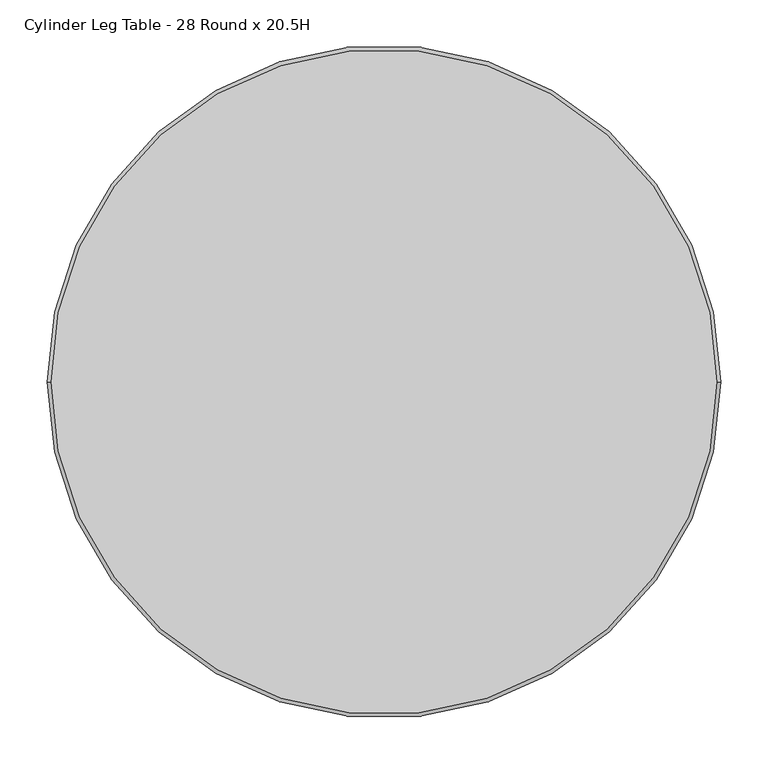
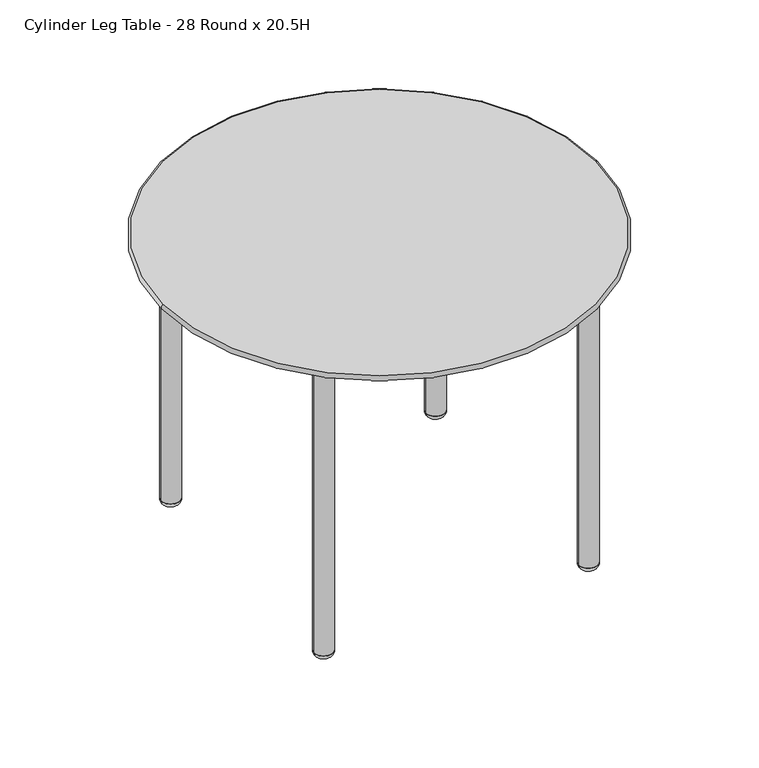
"""IFC4 building model written with IfcOpenShell, lengths in millimetres: furniture geometry, Integra - Coastal Collection - Coastal Metal Tables - Freestanding Table : Cylinder Leg Table - 28 Round x 20.5H."""

import ifcopenshell
import ifcopenshell.guid

model = None  # the IFC model being written
_history = None  # IfcOwnerHistory: only IFC2X3 demands one
_inside = {}  # id of a spatial element -> (the spatial element, [elements in it])
_under = {}  # id of a project, library or spatial element -> (it, [spatial elements below it])
_declared = {}  # id of a project -> (the project, [libraries it declares])
_typed = {}  # id of a type object -> (the type object, [elements of that type])
_made_of = {}  # id of a material, layer set ... -> (it, [elements and type objects made of it])


def new_model(schema):
    """Start an empty IFC model of exactly this schema.

    Asked for "IFC4X3", IfcOpenShell would pick the latest addendum, in which some entities
    have other attributes; the version numbers below select the first issue.
    IFC2X3 requires an IfcOwnerHistory on every rooted entity: one is made here for all.
    """
    global model, _history
    if schema == "IFC4X3":
        model = ifcopenshell.file(schema_version=(4, 3, 0, 0))
    else:
        model = ifcopenshell.file(schema=schema)
    _inside.clear()
    _under.clear()
    _declared.clear()
    _typed.clear()
    _made_of.clear()
    _history = None
    if model.schema == "IFC2X3":
        org = make("IfcOrganization", Name="unknown")
        user = make(
            "IfcPersonAndOrganization",
            ThePerson=make("IfcPerson", FamilyName="unknown"),
            TheOrganization=org,
        )
        app = make(
            "IfcApplication",
            ApplicationDeveloper=org,
            Version="unknown",
            ApplicationFullName="unknown",
            ApplicationIdentifier="unknown",
        )
        _history = make(
            "IfcOwnerHistory",
            OwningUser=user,
            OwningApplication=app,
            ChangeAction="ADDED",
            CreationDate=0,
        )
    return model


def make(cls, **values):
    """One entity of the class cls with the attributes given. An attribute that is None is left unset."""
    return model.create_entity(
        cls, **{name: value for name, value in values.items() if value is not None}
    )


def rooted(cls, **values):
    """An entity with a GlobalId (a new one), such as an element, a storey or a relation."""
    return make(cls, GlobalId=ifcopenshell.guid.new(), OwnerHistory=_history, **values)


def si_unit(unit_type, name, prefix=None):
    """IfcSIUnit, for example si_unit("LENGTHUNIT", "METRE", prefix="MILLI")."""
    return make("IfcSIUnit", UnitType=unit_type, Prefix=prefix, Name=name)


def assignment(units):
    """IfcUnitAssignment: the units of a project."""
    return None if units is None else make("IfcUnitAssignment", Units=units)


def point(xyz):
    """IfcCartesianPoint."""
    return None if xyz is None else make("IfcCartesianPoint", Coordinates=xyz)


def direction(xyz):
    """IfcDirection."""
    return None if xyz is None else make("IfcDirection", DirectionRatios=xyz)


def frame(location, z_axis=None, x_axis=None):
    """IfcAxis2Placement3D, a coordinate frame: its origin and axes. An axis left out is left unset."""
    return make(
        "IfcAxis2Placement3D",
        Location=point(location),
        Axis=direction(z_axis),
        RefDirection=direction(x_axis),
    )


def frame_2d(location, x_axis=None):
    """IfcAxis2Placement2D, a coordinate frame in the plane: its origin and x axis."""
    return make(
        "IfcAxis2Placement2D", Location=point(location), RefDirection=direction(x_axis)
    )


def origin():
    """The frame at (0, 0, 0) with its axes left unset."""
    return frame((0.0, 0.0, 0.0))


def origin_2d():
    """The frame at (0, 0) in the plane with its x axis left unset."""
    return frame_2d((0.0, 0.0))


def place(relative_to, where):
    """IfcLocalPlacement: puts the frame where relative to a parent placement (None: the world)."""
    return make(
        "IfcLocalPlacement", PlacementRelTo=relative_to, RelativePlacement=where
    )


def context(
    kind, dimensions, precision=None, world=None, true_north=None, identifier=None
):
    """IfcGeometricRepresentationContext, for example the 3D "Model" context."""
    return make(
        "IfcGeometricRepresentationContext",
        ContextIdentifier=identifier,
        ContextType=kind,
        CoordinateSpaceDimension=dimensions,
        Precision=precision,
        WorldCoordinateSystem=world,
        TrueNorth=true_north,
    )


def project(units=None, contexts=None):
    """IfcProject with its units and contexts."""
    return rooted(
        "IfcProject",
        Name="project",
        RepresentationContexts=contexts,
        UnitsInContext=assignment(units),
    )


def spatial(cls, under=None, at=None, **own):
    """A site, building, storey or space (cls), placed at a placement, below another one or the project."""
    s = rooted(cls, ObjectPlacement=at, **own)
    if under is not None:
        _under.setdefault(under.id(), (under, []))[1].append(s)
    return s


def circle_curve(where, radius):
    """IfcCircle in the frame where."""
    return make("IfcCircle", Position=where, Radius=radius)


def ellipse_curve(where, semi_axis1, semi_axis2):
    """IfcEllipse in the frame where."""
    return make(
        "IfcEllipse", Position=where, SemiAxis1=semi_axis1, SemiAxis2=semi_axis2
    )


def trimmed(basis, trim1, trim2, sense, master):
    """IfcTrimmedCurve: the piece of a basis curve between two trims."""
    return make(
        "IfcTrimmedCurve",
        BasisCurve=basis,
        Trim1=trim1,
        Trim2=trim2,
        SenseAgreement=sense,
        MasterRepresentation=master,
    )


def segment(curve, same_sense, transition):
    """IfcCompositeCurveSegment."""
    return make(
        "IfcCompositeCurveSegment",
        Transition=transition,
        SameSense=same_sense,
        ParentCurve=curve,
    )


def composite_curve(segments, self_intersect=None):
    """IfcCompositeCurve: segments joined end to end."""
    return make("IfcCompositeCurve", Segments=segments, SelfIntersect=self_intersect)


def outline(outer, holes=None, kind="AREA"):
    """IfcArbitraryClosedProfileDef: a profile drawn as a closed curve; with holes, ...WithVoids."""
    if holes is None:
        return make("IfcArbitraryClosedProfileDef", ProfileType=kind, OuterCurve=outer)
    return make(
        "IfcArbitraryProfileDefWithVoids",
        ProfileType=kind,
        OuterCurve=outer,
        InnerCurves=holes,
    )


def extrude(swept, where, along, depth):
    """IfcExtrudedAreaSolid: the profile swept, set in the frame where, extruded along a direction by depth."""
    return make(
        "IfcExtrudedAreaSolid",
        SweptArea=swept,
        Position=where,
        ExtrudedDirection=direction(along),
        Depth=depth,
    )


def shape(context_of_items, identifier, shape_type, items):
    """IfcShapeRepresentation: the items that make up one representation, for example the "Body"."""
    return make(
        "IfcShapeRepresentation",
        ContextOfItems=context_of_items,
        RepresentationIdentifier=identifier,
        RepresentationType=shape_type,
        Items=items,
    )


def source(mapping_origin, context_of_items, identifier, shape_type, items):
    """IfcRepresentationMap: a shape defined once, which mapped items show again and again."""
    return make(
        "IfcRepresentationMap",
        MappingOrigin=mapping_origin,
        MappedRepresentation=shape(context_of_items, identifier, shape_type, items),
    )


def transform(
    local_origin,
    x_axis=None,
    y_axis=None,
    z_axis=None,
    scale=None,
    scale2=None,
    scale3=None,
    uniform=True,
):
    """IfcCartesianTransformationOperator3D, or its non-uniform kind. x_axis, y_axis, z_axis: its Axis1, 2, 3."""
    if uniform:
        return make(
            "IfcCartesianTransformationOperator3D",
            Axis1=direction(x_axis),
            Axis2=direction(y_axis),
            LocalOrigin=point(local_origin),
            Scale=scale,
            Axis3=direction(z_axis),
        )
    return make(
        "IfcCartesianTransformationOperator3DnonUniform",
        Axis1=direction(x_axis),
        Axis2=direction(y_axis),
        LocalOrigin=point(local_origin),
        Scale=scale,
        Axis3=direction(z_axis),
        Scale2=scale2,
        Scale3=scale3,
    )


def mapped(mapping_source, mapping_target):
    """IfcMappedItem: shows the shape of a source again, moved by a transform."""
    return make(
        "IfcMappedItem", MappingSource=mapping_source, MappingTarget=mapping_target
    )


def made_of(thing, what):
    """Note that an element or type object is made of a material, layer set ...; save() writes the relation."""
    if what is not None:
        _made_of.setdefault(what.id(), (what, []))[1].append(thing)
    return thing


def element(
    cls,
    number,
    at=None,
    inside=None,
    cuts=None,
    type_object=None,
    material=None,
    context=None,
    identifier="Body",
    shape_type=None,
    held_by="IfcProductDefinitionShape",
    body=None,
    shapes=None,
    **own,
):
    """One element of the class cls, such as IfcWall. Its Tag is "e" and its number.

    at: its placement. inside: the storey or other place that contains it. cuts: it is an
    opening in that element (IfcRelVoidsElement). A single representation is given by context,
    identifier, shape_type and body (its items); several are given by shapes. held_by: the class
    of the entity that holds the representations. save() writes the other relations.
    """
    e = rooted(cls, Tag="e%d" % number, ObjectPlacement=at, **own)
    if body is not None:
        shapes = [shape(context, identifier, shape_type, body)]
    if shapes is not None:
        e.Representation = make(held_by, Representations=shapes)
    if inside is not None:
        _inside.setdefault(inside.id(), (inside, []))[1].append(e)
    if cuts is not None:
        rooted(
            "IfcRelVoidsElement", RelatingBuildingElement=cuts, RelatedOpeningElement=e
        )
    if type_object is not None:
        _typed.setdefault(type_object.id(), (type_object, []))[1].append(e)
    return made_of(e, material)


def aggregate(whole, parts):
    """IfcRelAggregates: a whole, such as a stair, and the parts it consists of."""
    return rooted("IfcRelAggregates", RelatingObject=whole, RelatedObjects=parts)


def save(model, path):
    """Write the relations noted so far, then the file.

    IfcRelAggregates (storeys below a building ...), IfcRelContainedInSpatialStructure (elements
    in a storey), IfcRelDefinesByType, IfcRelAssociatesMaterial and IfcRelDeclares: one each for
    every whole, place, type object, material and project.
    """
    for whole, parts in _under.values():
        aggregate(whole, parts)
    for where, things in _inside.values():
        rooted(
            "IfcRelContainedInSpatialStructure",
            RelatedElements=things,
            RelatingStructure=where,
        )
    for kind, things in _typed.values():
        rooted("IfcRelDefinesByType", RelatedObjects=things, RelatingType=kind)
    for what, things in _made_of.values():
        rooted("IfcRelAssociatesMaterial", RelatedObjects=things, RelatingMaterial=what)
    for by, libraries in _declared.values():
        rooted("IfcRelDeclares", RelatingContext=by, RelatedDefinitions=libraries)
    model.write(path)


def plane_surface(at):
    """IfcPlane: the flat surface through the origin of the frame at, square to its z axis."""
    return make("IfcPlane", Position=at)


def revolved_surface(curve, axis_point, axis_direction):
    """IfcSurfaceOfRevolution: the curve turned about the line through axis_point along axis_direction."""
    return make(
        "IfcSurfaceOfRevolution",
        SweptCurve=make("IfcArbitraryOpenProfileDef", ProfileType="CURVE", Curve=curve),
        AxisPosition=make("IfcAxis1Placement", Location=point(axis_point), Axis=direction(axis_direction)),
    )


def advanced_brep(points, edges, surfaces, faces):
    """IfcAdvancedBrep: a solid bounded by faces that lie on surfaces and meet in shared edges.

    An edge is (start, end): straight between two places in points (the first is 0);
    or (start, end, curve); or (start, end, curve, False) where it runs against its curve.
    A face is (place in surfaces, loops), or (place, loops, False) where it looks against
    its surface's normal. A loop lists edges by number (the first is 1), with a minus sign
    where the edge is run from its end to its start. The first loop is the outer one.
    """
    corners = [point(p) for p in points]
    vertices = [make("IfcVertexPoint", VertexGeometry=c) for c in corners]
    made = []
    for start, end, *more in edges:
        made.append(
            make(
                "IfcEdgeCurve",
                EdgeStart=vertices[start],
                EdgeEnd=vertices[end],
                EdgeGeometry=more[0] if more else make("IfcPolyline", Points=[corners[start], corners[end]]),
                SameSense=more[1] if len(more) > 1 else True,
            )
        )
    hull = []
    for where, loops, *sense in faces:
        bounds = []
        for j, loop in enumerate(loops):
            ring = [make("IfcOrientedEdge", EdgeElement=made[abs(k) - 1], Orientation=k > 0) for k in loop]
            bounds.append(
                make(
                    "IfcFaceOuterBound" if j == 0 else "IfcFaceBound",
                    Bound=make("IfcEdgeLoop", EdgeList=ring),
                    Orientation=True,
                )
            )
        hull.append(make("IfcAdvancedFace", Bounds=bounds, FaceSurface=surfaces[where], SameSense=sense[0] if sense else True))
    return make("IfcAdvancedBrep", Outer=make("IfcClosedShell", CfsFaces=hull))


def cylinder_leg_table_28_round_x_20_5h_47d25741(model_context):
    return source(origin(), model_context, "Body", "SolidModel", [
        advanced_brep(
        [(-330.184015, 0.0, 507.9999939), (330.184015, 0.0, 507.9999939), (351.6380192, 0.0, 520.7), (-351.6380192, 0.0, 520.7), (353.3187402, 0.0, 513.1501969), (-353.3187402, 0.0, 513.1501969)],
        [
            (0, 1, circle_curve(frame((0.0, 0.0, 507.9999939), z_axis=(0.0, 0.0, -1.0), x_axis=(1.0, 0.0, 0.0)), 330.184015)),
            (1, 0, circle_curve(frame((0.0, 0.0, 507.9999939), z_axis=(0.0, 0.0, -1.0), x_axis=(-1.0, 0.0, 0.0)), 330.184015)),
            (2, 3, circle_curve(frame((0.0, 0.0, 520.7), z_axis=(0.0, 0.0, 1.0), x_axis=(1.0, 0.0, 0.0)), 351.6380192)),
            (3, 2, circle_curve(frame((0.0, 0.0, 520.7), z_axis=(0.0, 0.0, 1.0), x_axis=(-1.0, 0.0, 0.0)), 351.6380192)),
            (2, 4, circle_curve(frame((351.6380192, 0.0, 516.7380192), z_axis=(0.0, 1.0, 0.0), x_axis=(-1.0, 0.0, 0.0)), 3.9619808)),
            (4, 5, circle_curve(frame((0.0, 0.0, 513.1501969), z_axis=(0.0, 0.0, 1.0), x_axis=(1.0, 0.0, 0.0)), 353.3187402)),
            (5, 3, circle_curve(frame((-351.6380192, 0.0, 516.7380192), z_axis=(0.0, 1.0, 0.0), x_axis=(1.0, 0.0, 0.0)), 3.9619808)),
            (4, 1, circle_curve(frame((330.184015, 0.0, 562.5357186), z_axis=(0.0, 1.0, 0.0), x_axis=(-1.0, 0.0, 0.0)), 54.5357246)),
            (0, 5, circle_curve(frame((-330.184015, 0.0, 562.5357186), z_axis=(0.0, 1.0, 0.0), x_axis=(1.0, 0.0, 0.0)), 54.5357246)),
            (5, 4, circle_curve(frame((0.0, 0.0, 513.1501969), z_axis=(0.0, 0.0, 1.0), x_axis=(-1.0, 0.0, 0.0)), 353.3187402)),
        ],
        [
            plane_surface(frame((-25.4, 0.0, 507.9999939), z_axis=(0.0, 0.0, -1.0), x_axis=(0.0, 1.0, 0.0))),
            plane_surface(frame((-25.4, 0.0, 520.7), z_axis=(0.0, 0.0, 1.0), x_axis=(0.0, -1.0, 0.0))),
            revolved_surface(trimmed(ellipse_curve(frame((351.6380192, 0.0, 516.7380192), z_axis=(0.0, -1.0, 0.0), x_axis=(-1.0, 0.0, 0.0)), 3.9619808, 3.9619808), [point((353.3187402, 0.0, 513.1501969))], [point((351.6380192, 0.0, 520.7))], True, "CARTESIAN"), (0.0, 0.0, 520.7), (0.0, 0.0, 1.0)),
            revolved_surface(trimmed(ellipse_curve(frame((330.184015, 0.0, 562.5357186), z_axis=(0.0, -1.0, 0.0), x_axis=(-1.0, 0.0, 0.0)), 54.5357246, 54.5357246), [point((330.184015, 0.0, 507.9999939))], [point((353.3187402, 0.0, 513.1501969))], True, "CARTESIAN"), (0.0, 0.0, 520.7), (0.0, 0.0, 1.0)),
            revolved_surface(trimmed(ellipse_curve(frame((-351.6380192, 0.0, 516.7380192), z_axis=(0.0, 1.0, 0.0), x_axis=(1.0, 0.0, 0.0)), 3.9619808, 3.9619808), [point((-353.3187402, 0.0, 513.1501969))], [point((-351.6380192, 0.0, 520.7))], True, "CARTESIAN"), (0.0, 0.0, 520.7), (0.0, 0.0, 1.0)),
            revolved_surface(trimmed(ellipse_curve(frame((-330.184015, 0.0, 562.5357186), z_axis=(0.0, 1.0, 0.0), x_axis=(1.0, 0.0, 0.0)), 54.5357246, 54.5357246), [point((-330.184015, 0.0, 507.9999939))], [point((-353.3187402, 0.0, 513.1501969))], True, "CARTESIAN"), (0.0, 0.0, 520.7), (0.0, 0.0, 1.0)),
        ],
        [
            (0, [[1, 2]]),
            (1, [[3, 4]]),
            (2, [[-3, 5, 6, 7]]),
            (3, [[-6, 8, -1, 9]]),
            (4, [[-5, -4, -7, 10]]),
            (5, [[-8, -10, -9, -2]]),
        ],
    ),
        extrude(outline(composite_curve([segment(trimmed(circle_curve(origin_2d(), 330.2), [point((-330.2, 0.0))], [point((330.2, 0.0))], False, "CARTESIAN"), True, "CONTINUOUS"), segment(trimmed(circle_curve(origin_2d(), 330.2), [point((330.2, 0.0))], [point((-330.2, 0.0))], False, "CARTESIAN"), True, "CONTINUOUS")], self_intersect=False)), frame((0.0, 0.0, 501.6499939), z_axis=(0.0, 0.0, 1.0), x_axis=(1.0, 0.0, 0.0)), (0.0, 0.0, 1.0), 6.35),
        advanced_brep(
        [(-231.1705408, 215.5261469, 9.5239742), (-199.881753, 215.5261469, 9.5239742), (-215.5261469, 215.5261469, 9.5239742), (-221.6455408, 215.5261469, -0.0010258), (-209.406753, 215.5261469, -0.0010258), (-215.5261469, 215.5261469, -0.0010258)],
        [
            (0, 1, circle_curve(frame((-215.5261469, 215.5261469, 9.5239742), z_axis=(0.0, 0.0, 1.0), x_axis=(1.0, 0.0, 0.0)), 15.6443939)),
            (1, 2),
            (2, 0),
            (1, 0, circle_curve(frame((-215.5261469, 215.5261469, 9.5239742), z_axis=(0.0, 0.0, 1.0), x_axis=(1.0, 0.0, 0.0)), 15.6443939)),
            (3, 4, circle_curve(frame((-215.5261469, 215.5261469, -0.0010258), z_axis=(0.0, 0.0, 1.0), x_axis=(1.0, 0.0, 0.0)), 6.1193939)),
            (4, 1, circle_curve(frame((-209.406753, 215.5261469, 9.5239742), z_axis=(0.0, -1.0, 0.0), x_axis=(1.0, 0.0, 0.0)), 9.525)),
            (0, 3, circle_curve(frame((-221.6455408, 215.5261469, 9.5239742), z_axis=(0.0, -1.0, 0.0), x_axis=(-1.0, 0.0, 0.0)), 9.525)),
            (4, 3, circle_curve(frame((-215.5261469, 215.5261469, -0.0010258), z_axis=(0.0, 0.0, 1.0), x_axis=(1.0, 0.0, 0.0)), 6.1193939)),
            (5, 4),
            (3, 5),
        ],
        [
            plane_surface(frame((-215.5261469, 215.5261469, 9.5239742), z_axis=(0.0, 0.0, 1.0), x_axis=(1.0, 0.0, 0.0))),
            revolved_surface(trimmed(ellipse_curve(frame((-209.406753, 215.5261469, 9.5239742), z_axis=(0.0, 1.0, 0.0), x_axis=(1.0, 0.0, 0.0)), 9.525, 9.525), [point((-199.881753, 215.5261469, 9.5239742))], [point((-209.406753, 215.5261469, -0.0010258))], True, "CARTESIAN"), (-215.5261469, 215.5261469, -0.0010258), (0.0, 0.0, -1.0)),
            plane_surface(frame((-215.5261469, 215.5261469, -0.0010258), z_axis=(0.0, 0.0, -1.0), x_axis=(1.0, 0.0, 0.0))),
        ],
        [
            (0, [[1, 2, 3]]),
            (0, [[4, -3, -2]]),
            (1, [[5, 6, -1, 7]]),
            (1, [[8, -7, -4, -6]]),
            (2, [[9, -5, 10]]),
            (2, [[-10, -8, -9]]),
        ],
    ),
        advanced_brep(
        [(-215.5261469, -215.5261469, 9.5239742), (-199.881753, -215.5261469, 9.5239742), (-231.1705408, -215.5261469, 9.5239742), (-209.406753, -215.5261469, -0.0010258), (-221.6455408, -215.5261469, -0.0010258), (-215.5261469, -215.5261469, -0.0010258)],
        [
            (0, 1),
            (1, 2, circle_curve(frame((-215.5261469, -215.5261469, 9.5239742), z_axis=(0.0, 0.0, 1.0), x_axis=(1.0, 0.0, 0.0)), 15.6443939)),
            (2, 0),
            (2, 1, circle_curve(frame((-215.5261469, -215.5261469, 9.5239742), z_axis=(0.0, 0.0, 1.0), x_axis=(1.0, 0.0, 0.0)), 15.6443939)),
            (1, 3, circle_curve(frame((-209.406753, -215.5261469, 9.5239742), z_axis=(0.0, 1.0, 0.0), x_axis=(1.0, 0.0, 0.0)), 9.525)),
            (3, 4, circle_curve(frame((-215.5261469, -215.5261469, -0.0010258), z_axis=(0.0, 0.0, 1.0), x_axis=(1.0, 0.0, 0.0)), 6.1193939)),
            (4, 2, circle_curve(frame((-221.6455408, -215.5261469, 9.5239742), z_axis=(0.0, 1.0, 0.0), x_axis=(-1.0, 0.0, 0.0)), 9.525)),
            (4, 3, circle_curve(frame((-215.5261469, -215.5261469, -0.0010258), z_axis=(0.0, 0.0, 1.0), x_axis=(1.0, 0.0, 0.0)), 6.1193939)),
            (3, 5),
            (5, 4),
        ],
        [
            plane_surface(frame((-215.5261469, -215.5261469, 9.5239742), z_axis=(0.0, 0.0, 1.0), x_axis=(1.0, 0.0, 0.0))),
            revolved_surface(trimmed(ellipse_curve(frame((-209.406753, -215.5261469, 9.5239742), z_axis=(0.0, -1.0, 0.0), x_axis=(1.0, 0.0, 0.0)), 9.525, 9.525), [point((-209.406753, -215.5261469, -0.0010258))], [point((-199.881753, -215.5261469, 9.5239742))], True, "CARTESIAN"), (-215.5261469, -215.5261469, -0.0010258), (0.0, 0.0, 1.0)),
            plane_surface(frame((-215.5261469, -215.5261469, -0.0010258), z_axis=(0.0, 0.0, -1.0), x_axis=(1.0, 0.0, 0.0))),
        ],
        [
            (0, [[1, 2, 3]]),
            (0, [[-3, 4, -1]]),
            (1, [[-2, 5, 6, 7]]),
            (1, [[-4, -7, 8, -5]]),
            (2, [[-6, 9, 10]]),
            (2, [[-8, -10, -9]]),
        ],
    ),
        advanced_brep(
        [(215.5261469, 215.5261469, 9.5239742), (199.881753, 215.5261469, 9.5239742), (231.1705408, 215.5261469, 9.5239742), (209.406753, 215.5261469, -0.0010258), (221.6455408, 215.5261469, -0.0010258), (215.5261469, 215.5261469, -0.0010258)],
        [
            (0, 1),
            (1, 2, circle_curve(frame((215.5261469, 215.5261469, 9.5239742), z_axis=(0.0, 0.0, 1.0), x_axis=(-1.0, 0.0, 0.0)), 15.6443939)),
            (2, 0),
            (2, 1, circle_curve(frame((215.5261469, 215.5261469, 9.5239742), z_axis=(0.0, 0.0, 1.0), x_axis=(-1.0, 0.0, 0.0)), 15.6443939)),
            (1, 3, circle_curve(frame((209.406753, 215.5261469, 9.5239742), z_axis=(0.0, -1.0, 0.0), x_axis=(-1.0, 0.0, 0.0)), 9.525)),
            (3, 4, circle_curve(frame((215.5261469, 215.5261469, -0.0010258), z_axis=(0.0, 0.0, 1.0), x_axis=(-1.0, 0.0, 0.0)), 6.1193939)),
            (4, 2, circle_curve(frame((221.6455408, 215.5261469, 9.5239742), z_axis=(0.0, -1.0, 0.0), x_axis=(1.0, 0.0, 0.0)), 9.525)),
            (4, 3, circle_curve(frame((215.5261469, 215.5261469, -0.0010258), z_axis=(0.0, 0.0, 1.0), x_axis=(-1.0, 0.0, 0.0)), 6.1193939)),
            (3, 5),
            (5, 4),
        ],
        [
            plane_surface(frame((215.5261469, 215.5261469, 9.5239742), z_axis=(0.0, 0.0, 1.0), x_axis=(-1.0, 0.0, 0.0))),
            revolved_surface(trimmed(ellipse_curve(frame((209.406753, 215.5261469, 9.5239742), z_axis=(0.0, 1.0, 0.0), x_axis=(-1.0, 0.0, 0.0)), 9.525, 9.525), [point((209.406753, 215.5261469, -0.0010258))], [point((199.881753, 215.5261469, 9.5239742))], True, "CARTESIAN"), (215.5261469, 215.5261469, -0.0010258), (0.0, 0.0, 1.0)),
            plane_surface(frame((215.5261469, 215.5261469, -0.0010258), z_axis=(0.0, 0.0, -1.0), x_axis=(-1.0, 0.0, 0.0))),
        ],
        [
            (0, [[1, 2, 3]]),
            (0, [[-3, 4, -1]]),
            (1, [[-2, 5, 6, 7]]),
            (1, [[-4, -7, 8, -5]]),
            (2, [[-6, 9, 10]]),
            (2, [[-8, -10, -9]]),
        ],
    ),
        advanced_brep(
        [(231.1705408, -215.5261469, 9.5239742), (199.881753, -215.5261469, 9.5239742), (215.5261469, -215.5261469, 9.5239742), (221.6455408, -215.5261469, -0.0010258), (209.406753, -215.5261469, -0.0010258), (215.5261469, -215.5261469, -0.0010258)],
        [
            (0, 1, circle_curve(frame((215.5261469, -215.5261469, 9.5239742), z_axis=(0.0, 0.0, 1.0), x_axis=(-1.0, 0.0, 0.0)), 15.6443939)),
            (1, 2),
            (2, 0),
            (1, 0, circle_curve(frame((215.5261469, -215.5261469, 9.5239742), z_axis=(0.0, 0.0, 1.0), x_axis=(-1.0, 0.0, 0.0)), 15.6443939)),
            (3, 4, circle_curve(frame((215.5261469, -215.5261469, -0.0010258), z_axis=(0.0, 0.0, 1.0), x_axis=(-1.0, 0.0, 0.0)), 6.1193939)),
            (4, 1, circle_curve(frame((209.406753, -215.5261469, 9.5239742), z_axis=(0.0, 1.0, 0.0), x_axis=(-1.0, 0.0, 0.0)), 9.525)),
            (0, 3, circle_curve(frame((221.6455408, -215.5261469, 9.5239742), z_axis=(0.0, 1.0, 0.0), x_axis=(1.0, 0.0, 0.0)), 9.525)),
            (4, 3, circle_curve(frame((215.5261469, -215.5261469, -0.0010258), z_axis=(0.0, 0.0, 1.0), x_axis=(-1.0, 0.0, 0.0)), 6.1193939)),
            (5, 4),
            (3, 5),
        ],
        [
            plane_surface(frame((215.5261469, -215.5261469, 9.5239742), z_axis=(0.0, 0.0, 1.0), x_axis=(-1.0, 0.0, 0.0))),
            revolved_surface(trimmed(ellipse_curve(frame((209.406753, -215.5261469, 9.5239742), z_axis=(0.0, -1.0, 0.0), x_axis=(-1.0, 0.0, 0.0)), 9.525, 9.525), [point((199.881753, -215.5261469, 9.5239742))], [point((209.406753, -215.5261469, -0.0010258))], True, "CARTESIAN"), (215.5261469, -215.5261469, -0.0010258), (0.0, 0.0, -1.0)),
            plane_surface(frame((215.5261469, -215.5261469, -0.0010258), z_axis=(0.0, 0.0, -1.0), x_axis=(-1.0, 0.0, 0.0))),
        ],
        [
            (0, [[1, 2, 3]]),
            (0, [[4, -3, -2]]),
            (1, [[5, 6, -1, 7]]),
            (1, [[8, -7, -4, -6]]),
            (2, [[9, -5, 10]]),
            (2, [[-10, -8, -9]]),
        ],
    ),
        extrude(outline(composite_curve([segment(trimmed(circle_curve(frame_2d((215.5261469, 215.5261469)), 15.6443939), [point((199.881753, 215.5261469))], [point((231.1705408, 215.5261469))], False, "CARTESIAN"), True, "CONTINUOUS"), segment(trimmed(circle_curve(frame_2d((215.5261469, 215.5261469)), 15.6443939), [point((231.1705408, 215.5261469))], [point((199.881753, 215.5261469))], False, "CARTESIAN"), True, "CONTINUOUS")], self_intersect=False)), frame((0.0, 0.0, 9.5366915), z_axis=(0.0, 0.0, 1.0), x_axis=(1.0, 0.0, 0.0)), (0.0, 0.0, 1.0), 492.1133025),
        extrude(outline(composite_curve([segment(trimmed(circle_curve(frame_2d((215.5261469, -215.5261469)), 15.6443939), [point((199.881753, -215.5261469))], [point((231.1705408, -215.5261469))], False, "CARTESIAN"), True, "CONTINUOUS"), segment(trimmed(circle_curve(frame_2d((215.5261469, -215.5261469)), 15.6443939), [point((231.1705408, -215.5261469))], [point((199.881753, -215.5261469))], False, "CARTESIAN"), True, "CONTINUOUS")], self_intersect=False)), frame((0.0, 0.0, 9.5366915), z_axis=(0.0, 0.0, 1.0), x_axis=(1.0, 0.0, 0.0)), (0.0, 0.0, 1.0), 492.1133025),
        extrude(outline(composite_curve([segment(trimmed(circle_curve(frame_2d((-215.5261469, 215.5261469)), 15.6443939), [point((-231.1705408, 215.5261469))], [point((-199.881753, 215.5261469))], False, "CARTESIAN"), True, "CONTINUOUS"), segment(trimmed(circle_curve(frame_2d((-215.5261469, 215.5261469)), 15.6443939), [point((-199.881753, 215.5261469))], [point((-231.1705408, 215.5261469))], False, "CARTESIAN"), True, "CONTINUOUS")], self_intersect=False)), frame((0.0, 0.0, 9.5366915), z_axis=(0.0, 0.0, 1.0), x_axis=(1.0, 0.0, 0.0)), (0.0, 0.0, 1.0), 492.1133025),
        extrude(outline(composite_curve([segment(trimmed(circle_curve(frame_2d((-215.5261469, -215.5261469)), 15.6443939), [point((-231.1705408, -215.5261469))], [point((-199.881753, -215.5261469))], False, "CARTESIAN"), True, "CONTINUOUS"), segment(trimmed(circle_curve(frame_2d((-215.5261469, -215.5261469)), 15.6443939), [point((-199.881753, -215.5261469))], [point((-231.1705408, -215.5261469))], False, "CARTESIAN"), True, "CONTINUOUS")], self_intersect=False)), frame((0.0, 0.0, 9.5366915), z_axis=(0.0, 0.0, 1.0), x_axis=(1.0, 0.0, 0.0)), (0.0, 0.0, 1.0), 492.1133025),
    ])


if __name__ == "__main__":
    model = new_model("IFC4")
    model_context = context("Model", 3, world=origin())
    ifc_project = project(units=[si_unit("LENGTHUNIT", "METRE", prefix="MILLI")], contexts=[model_context])
    site = spatial("IfcSite", under=ifc_project)
    building = spatial("IfcBuilding", under=site)
    placement = place(None, origin())
    cylinder_leg_table_28_round_x_20_5h_shape = cylinder_leg_table_28_round_x_20_5h_47d25741(model_context)
    element("IfcFurniture", 1, ObjectType="Integra - Coastal Collection - Coastal Metal Tables - Freestanding Table : Cylinder Leg Table - 28 Round x 20.5H", at=placement, inside=building, context=model_context, shape_type="MappedRepresentation", body=[
        mapped(cylinder_leg_table_28_round_x_20_5h_shape, transform((0.0, 0.0, 0.0), x_axis=(1.0, 0.0, 0.0), y_axis=(0.0, 1.0, 0.0), z_axis=(0.0, 0.0, 1.0))),
    ])
    save(model, "model.ifc")
